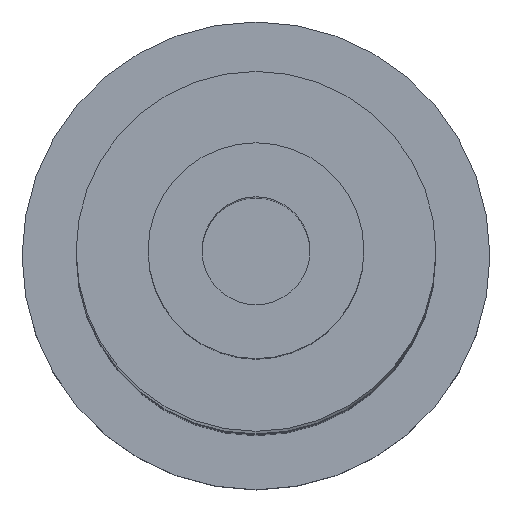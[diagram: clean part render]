
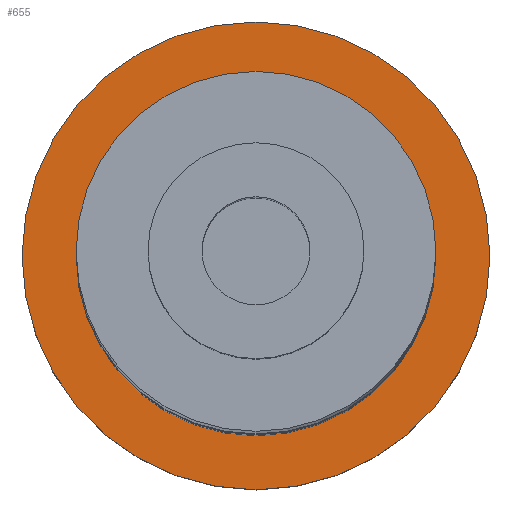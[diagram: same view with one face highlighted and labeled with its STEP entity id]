
A CAD part, top view. The second image highlights one B-rep face of the part: STEP entity #655.
In plain terms, the highlighted planar face has unit normal (0, 0, 1).
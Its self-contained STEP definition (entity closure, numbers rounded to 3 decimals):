
#122=EDGE_CURVE('',#321,#321,#322,.T.);
#160=EDGE_CURVE('',#378,#378,#379,.T.);
#321=VERTEX_POINT('',#540);
#322=CIRCLE('',#541,6.5);
#378=VERTEX_POINT('',#616);
#379=CIRCLE('',#617,4.0);
#540=CARTESIAN_POINT('',(0.0,6.5,-82.0));
#541=AXIS2_PLACEMENT_3D('',#857,#858,#859);
#616=CARTESIAN_POINT('',(0.0,4.0,-82.0));
#617=AXIS2_PLACEMENT_3D('',#914,#915,#916);
#655=ADVANCED_FACE('',(#979,#980),#981,.F.);
#857=CARTESIAN_POINT('',(0.0,0.0,-82.0));
#858=DIRECTION('',(0.0,0.0,-1.0));
#859=DIRECTION('',(0.0,1.0,0.0));
#914=CARTESIAN_POINT('',(0.0,0.0,-82.0));
#915=DIRECTION('',(0.0,0.0,-1.0));
#916=DIRECTION('',(0.0,1.0,0.0));
#979=FACE_BOUND('',#1121,.T.);
#980=FACE_OUTER_BOUND('',#1122,.T.);
#981=PLANE('',#1123);
#1121=EDGE_LOOP('',(#1353));
#1122=EDGE_LOOP('',(#1354));
#1123=AXIS2_PLACEMENT_3D('',#1355,#1356,#1357);
#1353=ORIENTED_EDGE('',*,*,#160,.T.);
#1354=ORIENTED_EDGE('',*,*,#122,.F.);
#1355=CARTESIAN_POINT('',(4.0,0.0,-82.0));
#1356=DIRECTION('',(0.0,0.0,-1.0));
#1357=DIRECTION('',(0.0,-1.0,0.0));
